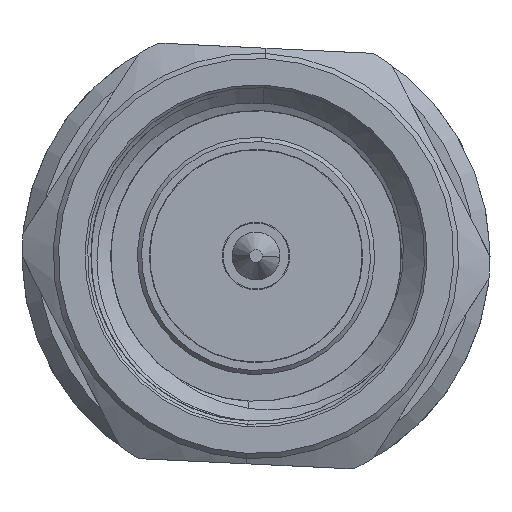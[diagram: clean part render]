
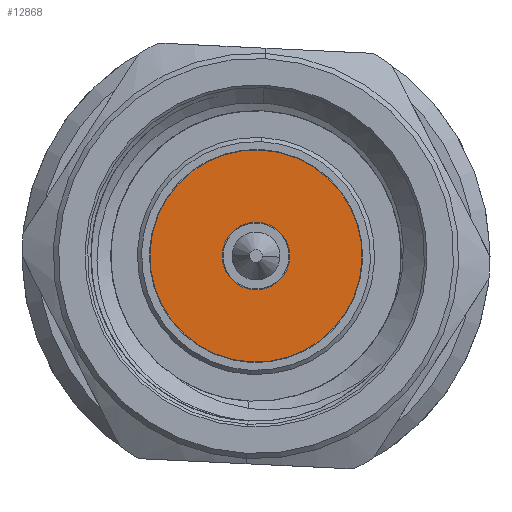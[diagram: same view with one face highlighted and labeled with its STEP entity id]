
A CAD part, left-side view. The second image highlights one B-rep face of the part: STEP entity #12868.
In plain terms, the highlighted planar face has unit normal (-1, 0, 0) as drawn and (0, 1, 0) by its records, which use the part's own axes.
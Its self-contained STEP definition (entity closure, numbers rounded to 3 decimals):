
#21 = DIRECTION ( 'NONE',  ( 0., 0., 1. ) ) ;
#260 = CARTESIAN_POINT ( 'NONE',  ( 0., 13.85, -2.04 ) ) ;
#441 = DIRECTION ( 'NONE',  ( 0., 0., 1. ) ) ;
#517 = VERTEX_POINT ( 'NONE', #260 ) ;
#635 = ORIENTED_EDGE ( 'NONE', *, *, #5904, .T. ) ;
#751 = DIRECTION ( 'NONE',  ( 0., 0., 1. ) ) ;
#1981 = CARTESIAN_POINT ( 'NONE',  ( 0., 13.85, 0. ) ) ;
#2003 = EDGE_CURVE ( 'NONE', #16893, #16767, #6262, .T. ) ;
#3334 = DIRECTION ( 'NONE',  ( 0., 0., 1. ) ) ;
#3629 = CARTESIAN_POINT ( 'NONE',  ( 0., 13.85, 0. ) ) ;
#3736 = FACE_OUTER_BOUND ( 'NONE', #10703, .T. ) ;
#4186 = CARTESIAN_POINT ( 'NONE',  ( 0., 13.85, -0.65 ) ) ;
#4433 = AXIS2_PLACEMENT_3D ( 'NONE', #1981, #9007, #3334 ) ;
#4906 = FACE_BOUND ( 'NONE', #8402, .T. ) ;
#5904 = EDGE_CURVE ( 'NONE', #16767, #16893, #9300, .T. ) ;
#6086 = PLANE ( 'NONE',  #15024 ) ;
#6178 = DIRECTION ( 'NONE',  ( 0., 1., 0. ) ) ;
#6262 = CIRCLE ( 'NONE', #14343, 0.65 ) ;
#7382 = ORIENTED_EDGE ( 'NONE', *, *, #2003, .T. ) ;
#7525 = CARTESIAN_POINT ( 'NONE',  ( -0.65, 13.85, 0. ) ) ;
#7754 = EDGE_CURVE ( 'NONE', #517, #14777, #12193, .T. ) ;
#8398 = EDGE_CURVE ( 'NONE', #14777, #517, #17734, .T. ) ;
#8402 = EDGE_LOOP ( 'NONE', ( #7382, #635 ) ) ;
#9007 = DIRECTION ( 'NONE',  ( 0., -1., 0. ) ) ;
#9300 = CIRCLE ( 'NONE', #13059, 0.65 ) ;
#9934 = CARTESIAN_POINT ( 'NONE',  ( 0., 13.85, 0. ) ) ;
#10538 = AXIS2_PLACEMENT_3D ( 'NONE', #3629, #16068, #751 ) ;
#10703 = EDGE_LOOP ( 'NONE', ( #14190, #13844 ) ) ;
#11291 = DIRECTION ( 'NONE',  ( 0., -1., 0. ) ) ;
#12193 = CIRCLE ( 'NONE', #4433, 2.04 ) ;
#12868 = ADVANCED_FACE ( 'NONE', ( #3736, #4906 ), #6086, .T. ) ;
#13059 = AXIS2_PLACEMENT_3D ( 'NONE', #16668, #15326, #441 ) ;
#13844 = ORIENTED_EDGE ( 'NONE', *, *, #7754, .F. ) ;
#14190 = ORIENTED_EDGE ( 'NONE', *, *, #8398, .F. ) ;
#14343 = AXIS2_PLACEMENT_3D ( 'NONE', #9934, #11291, #21 ) ;
#14777 = VERTEX_POINT ( 'NONE', #17592 ) ;
#15024 = AXIS2_PLACEMENT_3D ( 'NONE', #7525, #6178, #17167 ) ;
#15255 = CARTESIAN_POINT ( 'NONE',  ( 0., 13.85, 0.65 ) ) ;
#15326 = DIRECTION ( 'NONE',  ( 0., -1., 0. ) ) ;
#16068 = DIRECTION ( 'NONE',  ( 0., -1., 0. ) ) ;
#16668 = CARTESIAN_POINT ( 'NONE',  ( 0., 13.85, 0. ) ) ;
#16767 = VERTEX_POINT ( 'NONE', #4186 ) ;
#16893 = VERTEX_POINT ( 'NONE', #15255 ) ;
#17167 = DIRECTION ( 'NONE',  ( 1., 0., 0. ) ) ;
#17592 = CARTESIAN_POINT ( 'NONE',  ( 0., 13.85, 2.04 ) ) ;
#17734 = CIRCLE ( 'NONE', #10538, 2.04 ) ;
